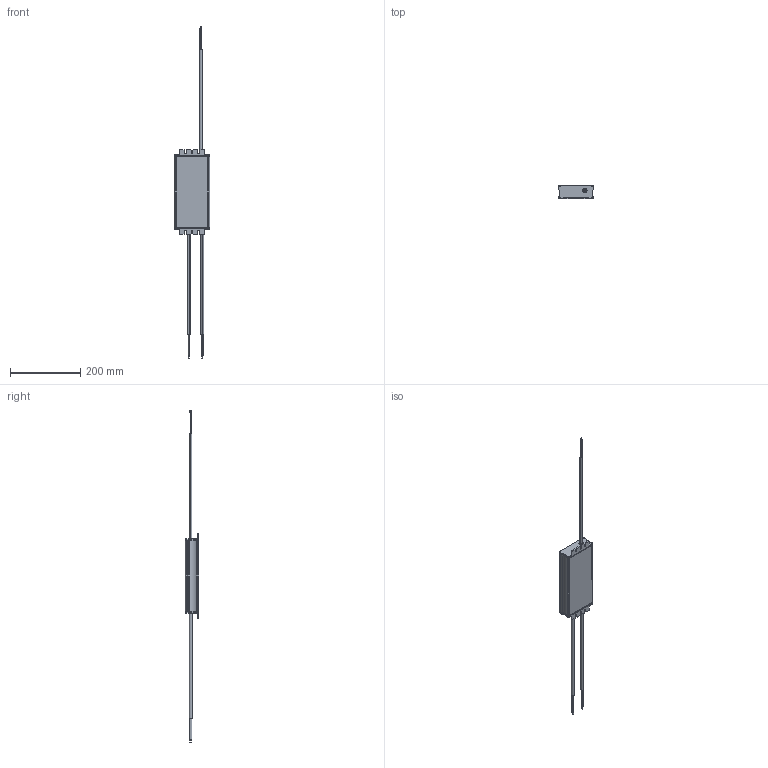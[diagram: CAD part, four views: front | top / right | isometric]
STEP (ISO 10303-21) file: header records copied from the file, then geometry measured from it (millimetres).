
FILE_DESCRIPTION (( 'STEP AP203' ), '1' );
FILE_NAME ('USCO-320210GA.STEP', '2017-07-21T07:52:54', ( 'TW' ), ( '' ), 'SwSTEP 2.0', 'SolidWorks 2010', '' );
FILE_SCHEMA (( 'CONFIG_CONTROL_DESIGN' ));
Length unit declared in the file: millimetre
Products named in the file (9): USCO-320210GA; 399207990000; 324288800000; 399-IN; OUTPUT wire; INPUT wire; 324550020000; 399211450000; DIM wire
Assembly tree (8 placements, depth 2):
  USCO-320210GA
    INPUT wire
    399-IN
    OUTPUT wire
    324288800000
    399207990000
    DIM wire
    399211450000
    324550020000
Bounding box: 100 x 38 x 944 mm (x, y, z)
Volume: 219269.7 mm3; surface area: 178924.1 mm2
Topology: 8 solids, 8 shells, 680 faces, 1782 edges, 1176 vertices
Faces by surface type: plane 265, bspline 200, cylinder 199, cone 10, torus 6
Entity records: 40057 total; most frequent: CARTESIAN_POINT 23257, ORIENTED_EDGE 3564, DIRECTION 2760, EDGE_CURVE 1782, VERTEX_POINT 1176, VECTOR 970, LINE 970, AXIS2_PLACEMENT_3D 895
